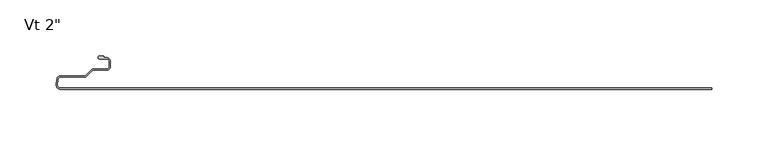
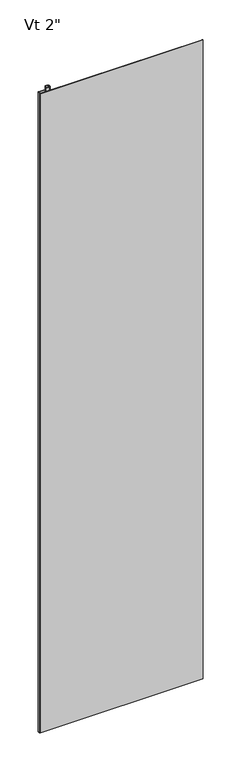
"""IFC4 building model written with IfcOpenShell, lengths in millimetres: plate geometry."""

from ifc_helpers import new_model, si_unit, point, frame_2d, origin, origin_with_axes, place, context, project, spatial, polyline, circle_curve, trimmed, segment, composite_curve, outline, extrude, source, transform, mapped, element, save


def plate_3caa896a(model_context):
    return source(origin(), model_context, "Body", "SweptSolid", [
        extrude(outline(composite_curve([segment(polyline([(-308.808759, -46.9184578), (-308.3690674, -41.8944437)]), True, "CONTINUOUS"), segment(trimmed(circle_curve(frame_2d((-304.7198391, -42.5052448)), 3.6999926), [point((-308.3690674, -41.8944437))], [point((-304.7198391, -38.8052522))], False, "CARTESIAN"), True, "CONTINUOUS"), segment(polyline([(-304.7198391, -38.8052522), (-283.5773995, -38.8052522)]), True, "CONTINUOUS"), segment(trimmed(circle_curve(frame_2d((-283.5773995, -37.5052548)), 1.2999974), [point((-283.5773995, -38.8052522))], [point((-282.6581626, -38.4244918))], True, "CARTESIAN"), True, "CONTINUOUS"), segment(polyline([(-282.6581626, -38.4244918), (-277.8297451, -33.5960743)]), True, "CONTINUOUS"), segment(trimmed(circle_curve(frame_2d((-275.9205606, -35.5052588)), 2.6999946), [point((-277.8297451, -33.5960743))], [point((-275.9205606, -32.8052642))], False, "CARTESIAN"), True, "CONTINUOUS"), segment(polyline([(-275.9205606, -32.8052642), (-264.1096715, -32.8052642)]), True, "CONTINUOUS"), segment(trimmed(circle_curve(frame_2d((-264.1096715, -30.4552689)), 2.3499953), [point((-264.1096715, -32.8052642))], [point((-261.7596762, -30.4552689))], True, "CARTESIAN"), True, "CONTINUOUS"), segment(polyline([(-261.7596762, -30.4552689), (-261.7596762, -26.0552777)]), True, "CONTINUOUS"), segment(trimmed(circle_curve(frame_2d((-264.1096715, -26.0552777)), 2.3499953), [point((-261.7596762, -26.0552777))], [point((-264.1096715, -23.7052824))], True, "CARTESIAN"), True, "CONTINUOUS"), segment(polyline([(-264.1096715, -23.7052824), (-270.6289777, -23.7052824)]), True, "CONTINUOUS"), segment(trimmed(circle_curve(frame_2d((-270.5686906, -22.5068002)), 1.1999976), [point((-270.6289777, -23.7052824))], [point((-271.7683, -22.4762782))], False, "CARTESIAN"), True, "CONTINUOUS"), segment(trimmed(circle_curve(frame_2d((-270.5686906, -22.5068002)), 1.1999976), [point((-271.7683, -22.4762782))], [point((-270.567176, -21.3068035))], False, "CARTESIAN"), True, "CONTINUOUS"), segment(polyline([(-270.567176, -21.3068035), (-266.8087826, -21.3068035), (-266.8087826, -22.7052824), (-264.1096715, -22.7052824)]), True, "CONTINUOUS"), segment(trimmed(circle_curve(frame_2d((-264.1096715, -26.0552777)), 3.3499953), [point((-264.1096715, -22.7052824))], [point((-260.7596762, -26.0552777))], False, "CARTESIAN"), True, "CONTINUOUS"), segment(polyline([(-260.7596762, -26.0552777), (-260.7596762, -30.4552689)]), True, "CONTINUOUS"), segment(trimmed(circle_curve(frame_2d((-264.1096715, -30.4552689)), 3.3499953), [point((-260.7596762, -30.4552689))], [point((-264.1096715, -33.8052642))], False, "CARTESIAN"), True, "CONTINUOUS"), segment(polyline([(-264.1096715, -33.8052642), (-275.9205606, -33.8052642)]), True, "CONTINUOUS"), segment(trimmed(circle_curve(frame_2d((-275.9205606, -35.5052588)), 1.6999946), [point((-275.9205606, -33.8052642))], [point((-277.1226383, -34.3031811))], True, "CARTESIAN"), True, "CONTINUOUS"), segment(polyline([(-277.1226383, -34.3031811), (-282.6247094, -39.8052522), (-304.7198391, -39.8052522)]), True, "CONTINUOUS"), segment(trimmed(circle_curve(frame_2d((-304.7198391, -42.5052448)), 2.6999926), [point((-304.7198391, -39.8052522))], [point((-307.3765707, -42.0238542))], True, "CARTESIAN"), True, "CONTINUOUS"), segment(polyline([(-307.3765707, -42.0238542), (-307.8125697, -47.0056751)]), True, "CONTINUOUS"), segment(trimmed(circle_curve(frame_2d((-305.2521175, -47.2297607)), 2.5702393), [point((-307.8125697, -47.0056751))], [point((-305.3094458, -49.7993606))], True, "CARTESIAN"), True, "CONTINUOUS"), segment(polyline([(-305.3094458, -49.7993606), (272.7999998, -49.7993606), (272.7999998, -50.7995979), (-305.2521124, -50.7999675)]), True, "CONTINUOUS"), segment(trimmed(circle_curve(frame_2d((-305.2521147, -47.2297282)), 3.5702393), [point((-305.2521124, -50.7999675))], [point((-308.808759, -46.9184578))], False, "CARTESIAN"), True, "CONTINUOUS")], self_intersect=False)), origin_with_axes(), (0.0, 0.0, 1.0), 2400.0),
    ])


if __name__ == "__main__":
    model = new_model("IFC4")
    model_context = context("Model", 3, world=origin())
    ifc_project = project(units=[si_unit("LENGTHUNIT", "METRE", prefix="MILLI")], contexts=[model_context])
    site = spatial("IfcSite", under=ifc_project)
    building = spatial("IfcBuilding", under=site)
    placement = place(None, origin())
    plate_shape = plate_3caa896a(model_context)
    element("IfcPlate", 1, ObjectType="KIP-36-Karrier-KP-R19-CP-Vt-FL3-8in_SL : Vt 2\"", at=placement, inside=building, context=model_context, shape_type="MappedRepresentation", body=[
        mapped(plate_shape, transform((0.0, 0.0, 0.0), x_axis=(1.0, 0.0, 0.0), y_axis=(0.0, 1.0, 0.0), z_axis=(0.0, 0.0, 1.0))),
    ])
    save(model, "model.ifc")
